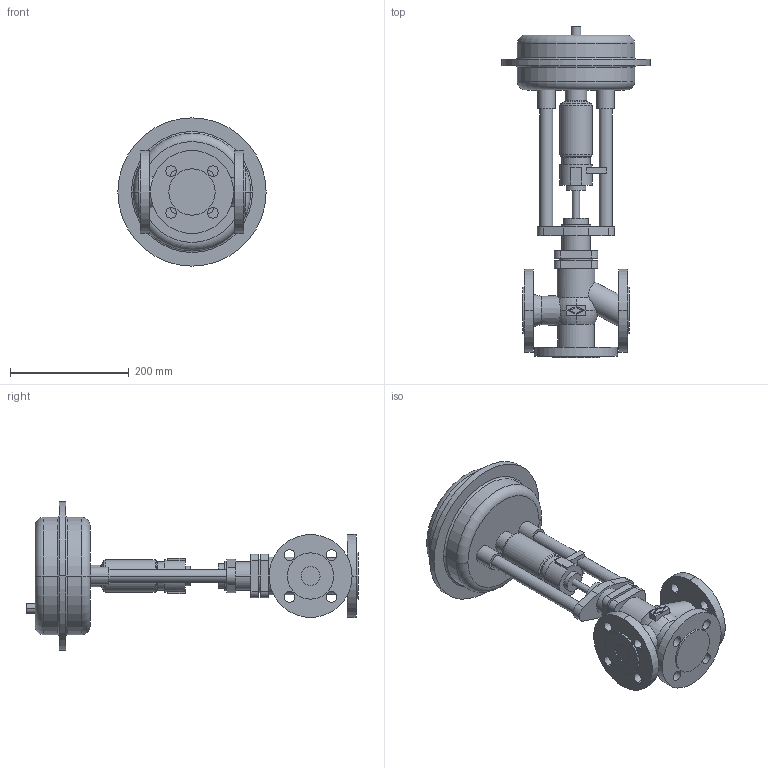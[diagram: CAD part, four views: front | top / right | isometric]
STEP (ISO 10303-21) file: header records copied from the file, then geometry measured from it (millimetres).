
FILE_DESCRIPTION(('OneSpaceDesigner STEP Export'),'2;1');
FILE_NAME('c000000404.stp','2006-09-13T12:32:37',(''),(''),'OneSpace Designer STEP processor for AP214 (Solid Model)','OneSpace Designer 13.20A 18-Aug-2005 (C) CoCreate Software GmbH','');
FILE_SCHEMA(('AUTOMOTIVE_DESIGN { 1 0 10303 214 1 1 1 1 }'));
Length unit declared in the file: millimetre
Products named in the file (2): 1; 2
Bounding box: 250 x 560 x 250 mm (x, y, z)
Volume: 5159091.1 mm3; surface area: 406364.1 mm2
Topology: 2 solids, 2 shells, 206 faces, 505 edges, 331 vertices
Faces by surface type: cylinder 94, plane 81, torus 23, cone 8
Entity records: 5548 total; most frequent: CARTESIAN_POINT 1083, ORIENTED_EDGE 1010, DIRECTION 808, EDGE_CURVE 505, VERTEX_POINT 331, AXIS2_PLACEMENT_3D 294, EDGE_LOOP 258, VECTOR 220
